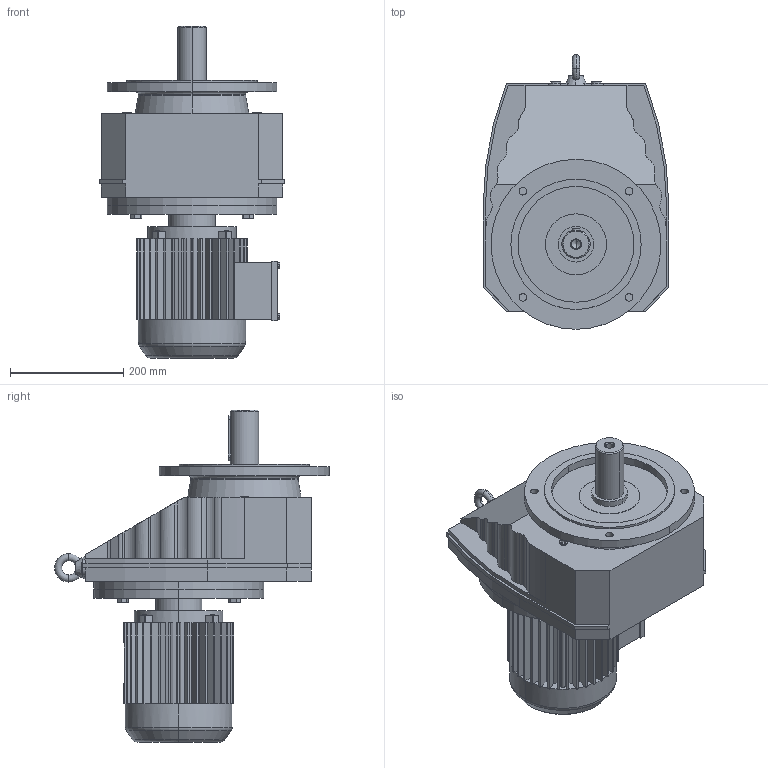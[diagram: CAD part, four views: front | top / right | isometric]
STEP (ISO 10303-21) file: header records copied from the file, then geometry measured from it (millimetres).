
FILE_DESCRIPTION(('Open CASCADE Model'),'2;1');
FILE_NAME('Open CASCADE Shape Model','2021-07-14T09:52:42',('Author'),( 'Open CASCADE'),'Open CASCADE STEP processor 6.3','Open CASCADE 6.3' ,'Unknown');
FILE_SCHEMA(('AUTOMOTIVE_DESIGN_CC2 { 1 2 10303 214 -1 1 5 4 }'));
Length unit declared in the file: millimetre
Products named in the file (3): 1_RXF97-Y90S-300; RXF57‵107_97_300.step; 萇儂_300_Y90S.step
Assembly tree (2 placements, depth 2):
  1_RXF97-Y90S-300
    RXF57‵107_97_300.step
    萇儂_300_Y90S.step
Bounding box: 328 x 485 x 586 mm (x, y, z)
Volume: 25418702.1 mm3; surface area: 1112972 mm2
Topology: 2 solids, 2 shells, 630 faces, 1656 edges, 1065 vertices
Faces by surface type: plane 417, cylinder 187, torus 14, cone 12
Entity records: 44175 total; most frequent: CARTESIAN_POINT 13046, DIRECTION 5338, ORIENTED_EDGE 3308, PCURVE 3308, DEFINITIONAL_REPRESENTATION 3308, LINE 2741, VECTOR 2741, EDGE_CURVE 1654
